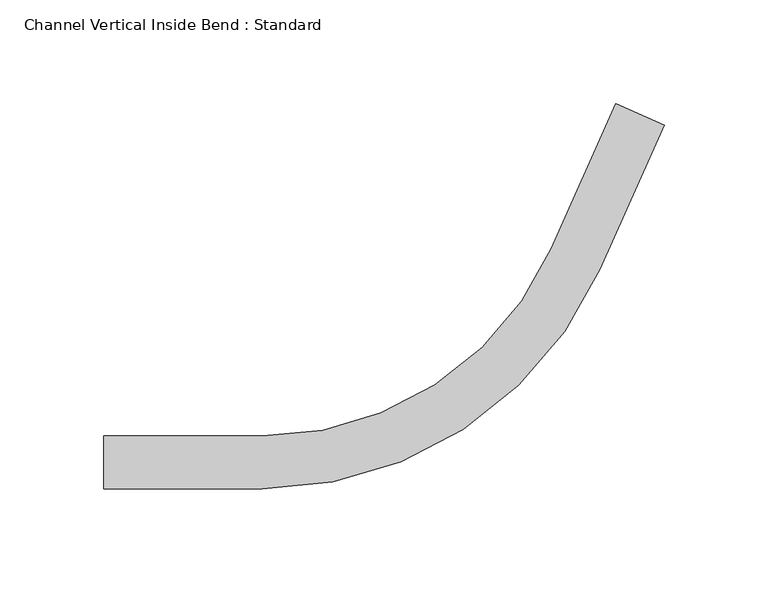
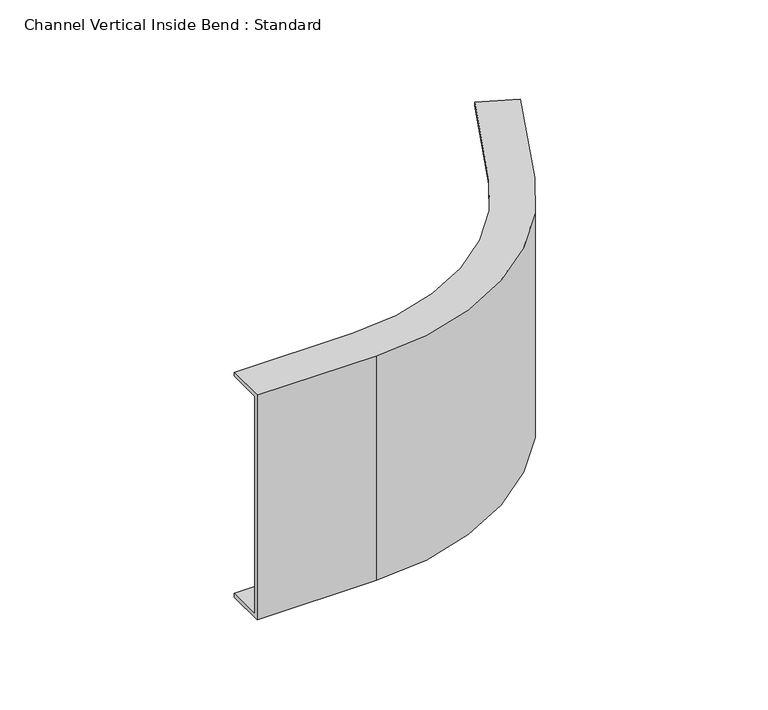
"""IFC4 building model written with IfcOpenShell, lengths in millimetres: cable carrier fitting geometry, Channel Vertical Inside Bend : Standard."""

from ifc_helpers import new_model, si_unit, frame, origin, place, context, project, spatial, polyline, circle_curve, source, transform, mapped, element, save
from ifc_brep_helpers import plane_surface, cylinder_surface, revolved_surface, advanced_brep


def channel_vertical_inside_bend_standard_5d8f391f(model_context):
    return source(origin(), model_context, "Body", "AdvancedBrep", [
        advanced_brep(
        [(-183.4171936, 12.7, 76.2), (-183.4171936, 12.7, 73.66), (-183.4171936, -10.16, 73.66), (-183.4171936, -10.16, -73.66), (-183.4171936, 12.7, -73.66), (-183.4171936, 12.7, -76.2), (-183.4171936, -12.7, -76.2), (-183.4171936, -12.7, 76.2), (63.0004663, 172.7254995, 76.2), (86.2045209, 162.3943887, 76.2), (86.2045209, 162.3943887, -76.2), (63.0004663, 172.7254995, -76.2), (63.0004663, 172.7254995, -73.66), (83.8841155, 163.4274998, -73.66), (83.8841155, 163.4274998, 73.66), (63.0004663, 172.7254995, 73.66), (-107.2171936, -12.7, 76.2), (55.2111887, 92.7822249, 76.2), (32.0071341, 103.1133356, 76.2), (-107.2171936, 12.7, 76.2), (-107.2171936, -12.7, -76.2), (-107.2171936, 12.7, -76.2), (32.0071341, 103.1133356, -76.2), (55.2111887, 92.7822249, -76.2), (-107.2171936, 12.7, -73.66), (-107.2171936, -10.16, -73.66), (52.8907833, 93.8153359, -73.66), (32.0071341, 103.1133356, -73.66), (-107.2171936, -10.16, 73.66), (-107.2171936, 12.7, 73.66), (32.0071341, 103.1133356, 73.66), (52.8907833, 93.8153359, 73.66)],
        [
            (0, 1),
            (1, 2),
            (2, 3),
            (3, 4),
            (4, 5),
            (5, 6),
            (6, 7),
            (7, 0),
            (8, 9),
            (9, 10),
            (10, 11),
            (11, 12),
            (12, 13),
            (13, 14),
            (14, 15),
            (15, 8),
            (7, 16),
            (16, 17, circle_curve(frame((-107.2171936, 165.1, 76.2), z_axis=(0.0, 0.0, 1.0), x_axis=(0.0, -1.0, 0.0)), 177.8)),
            (17, 9),
            (8, 18),
            (18, 19, circle_curve(frame((-107.2171936, 165.1, 76.2), z_axis=(0.0, 0.0, -1.0), x_axis=(0.0, -1.0, 0.0)), 152.4)),
            (19, 0),
            (6, 20),
            (20, 16),
            (5, 21),
            (21, 22, circle_curve(frame((-107.2171936, 165.1, -76.2), z_axis=(0.0, 0.0, 1.0), x_axis=(0.0, -1.0, 0.0)), 152.4)),
            (22, 11),
            (10, 23),
            (23, 20, circle_curve(frame((-107.2171936, 165.1, -76.2), z_axis=(0.0, 0.0, -1.0), x_axis=(0.0, -1.0, 0.0)), 177.8)),
            (4, 24),
            (24, 21),
            (3, 25),
            (25, 26, circle_curve(frame((-107.2171936, 165.1, -73.66), z_axis=(0.0, 0.0, 1.0), x_axis=(0.0, -1.0, 0.0)), 175.26)),
            (26, 13),
            (12, 27),
            (27, 24, circle_curve(frame((-107.2171936, 165.1, -73.66), z_axis=(0.0, 0.0, -1.0), x_axis=(0.0, -1.0, 0.0)), 152.4)),
            (2, 28),
            (28, 25),
            (1, 29),
            (29, 30, circle_curve(frame((-107.2171936, 165.1, 73.66), z_axis=(0.0, 0.0, 1.0), x_axis=(0.0, -1.0, 0.0)), 152.4)),
            (30, 15),
            (14, 31),
            (31, 28, circle_curve(frame((-107.2171936, 165.1, 73.66), z_axis=(0.0, 0.0, -1.0), x_axis=(0.0, -1.0, 0.0)), 175.26)),
            (19, 29),
            (23, 17),
            (27, 22),
            (31, 26),
            (18, 30),
        ],
        [
            plane_surface(frame((-183.4171936, 0.0, 0.0), z_axis=(-1.0, 0.0, 0.0), x_axis=(0.0, 0.0, 1.0))),
            plane_surface(frame((74.6024936, 167.5599441, 0.0), z_axis=(0.4067366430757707, 0.9135454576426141, 0.0), x_axis=(0.0, 0.0, 1.0))),
            plane_surface(frame((-183.4171936, -12.7, 76.2), z_axis=(0.0, 0.0, 1.0), x_axis=(1.0, 0.0, 0.0))),
            plane_surface(frame((-183.4171936, -12.7, -76.2), z_axis=(0.0, -1.0, 0.0), x_axis=(1.0, 0.0, 0.0))),
            plane_surface(frame((-183.4171936, 12.7, -76.2), z_axis=(0.0, 0.0, -1.0), x_axis=(1.0, 0.0, 0.0))),
            plane_surface(frame((-183.4171936, 12.7, -73.66), z_axis=(0.0, 1.0, 0.0), x_axis=(1.0, 0.0, 0.0))),
            plane_surface(frame((-183.4171936, -10.16, -73.66), z_axis=(0.0, 0.0, 1.0), x_axis=(1.0, 0.0, 0.0))),
            plane_surface(frame((-183.4171936, -10.16, 73.66), z_axis=(0.0, 1.0, 0.0), x_axis=(1.0, 0.0, 0.0))),
            plane_surface(frame((-183.4171936, 12.7, 73.66), z_axis=(0.0, 0.0, -1.0), x_axis=(1.0, 0.0, 0.0))),
            plane_surface(frame((-183.4171936, 12.7, 76.2), z_axis=(0.0, 1.0, 0.0), x_axis=(1.0, 0.0, 0.0))),
            cylinder_surface(frame((-107.2171936, 165.1, 0.0), z_axis=(0.0, 0.0, 1.0), x_axis=(0.0, -1.0, 0.0)), 177.8),
            revolved_surface(polyline([(-107.2171936, 12.699999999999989, -73.66), (-107.2171936, 12.699999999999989, -76.2)]), (-107.2171936, 165.1, 0.0), (0.0, 0.0, 1.0)),
            revolved_surface(polyline([(-107.2171936, -10.159999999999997, 73.66), (-107.2171936, -10.159999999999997, -73.66)]), (-107.2171936, 165.1, 0.0), (0.0, 0.0, 1.0)),
            revolved_surface(polyline([(-107.2171936, 12.699999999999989, 76.2), (-107.2171936, 12.699999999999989, 73.66)]), (-107.2171936, 165.1, 0.0), (0.0, 0.0, 1.0)),
            plane_surface(frame((55.2111887, 92.7822249, -76.2), z_axis=(0.9135454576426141, -0.4067366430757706, 0.0), x_axis=(0.4067366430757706, 0.9135454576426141, 0.0))),
            plane_surface(frame((32.0071341, 103.1133356, -73.66), z_axis=(-0.9135454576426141, 0.40673664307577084, 0.0), x_axis=(0.40673664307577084, 0.9135454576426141, 0.0))),
            plane_surface(frame((52.8907833, 93.8153359, 73.66), z_axis=(-0.9135454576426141, 0.40673664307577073, 0.0), x_axis=(0.40673664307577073, 0.9135454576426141, 0.0))),
            plane_surface(frame((32.0071341, 103.1133356, 76.2), z_axis=(-0.9135454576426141, 0.40673664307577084, 0.0), x_axis=(0.40673664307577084, 0.9135454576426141, 0.0))),
        ],
        [
            (0, [[1, 2, 3, 4, 5, 6, 7, 8]]),
            (1, [[9, 10, 11, 12, 13, 14, 15, 16]]),
            (2, [[-8, 17, 18, 19, -9, 20, 21, 22]]),
            (3, [[-7, 23, 24, -17]]),
            (4, [[-6, 25, 26, 27, -11, 28, 29, -23]]),
            (5, [[-5, 30, 31, -25]]),
            (6, [[-4, 32, 33, 34, -13, 35, 36, -30]]),
            (7, [[-3, 37, 38, -32]]),
            (8, [[-2, 39, 40, 41, -15, 42, 43, -37]]),
            (9, [[-1, -22, 44, -39]]),
            (10, [[-18, -24, -29, 45]]),
            (11, [[-26, -31, -36, 46]]),
            (12, [[-33, -38, -43, 47]]),
            (13, [[-40, -44, -21, 48]]),
            (14, [[-45, -28, -10, -19]]),
            (15, [[-46, -35, -12, -27]]),
            (16, [[-47, -42, -14, -34]]),
            (17, [[-48, -20, -16, -41]]),
        ],
    ),
    ])


if __name__ == "__main__":
    model = new_model("IFC4")
    model_context = context("Model", 3, world=origin())
    ifc_project = project(units=[si_unit("LENGTHUNIT", "METRE", prefix="MILLI")], contexts=[model_context])
    site = spatial("IfcSite", under=ifc_project)
    building = spatial("IfcBuilding", under=site)
    placement = place(None, origin())
    channel_vertical_inside_bend_standard_shape = channel_vertical_inside_bend_standard_5d8f391f(model_context)
    element("IfcCableCarrierFitting", 1, ObjectType="Channel Vertical Inside Bend : Standard", at=placement, inside=building, context=model_context, shape_type="MappedRepresentation", body=[
        mapped(channel_vertical_inside_bend_standard_shape, transform((0.0, 0.0, 0.0), x_axis=(1.0, 0.0, 0.0), y_axis=(0.0, 1.0, 0.0), z_axis=(0.0, 0.0, 1.0))),
    ])
    save(model, "model.ifc")
